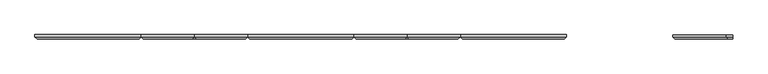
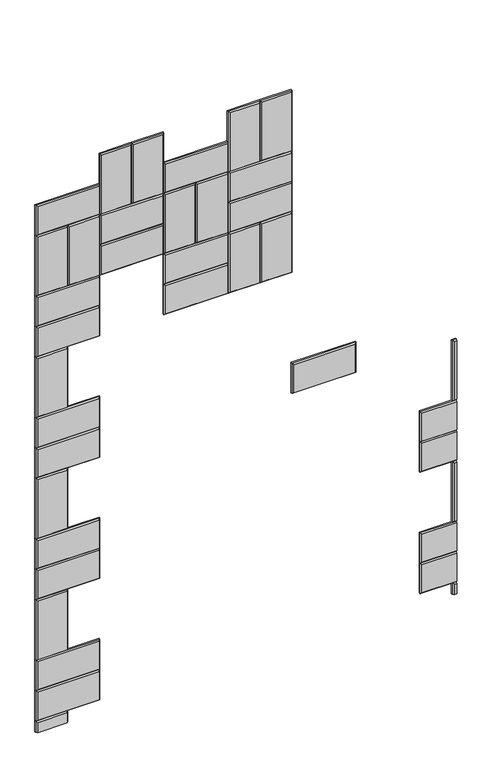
"""IFC4 building model written with IfcOpenShell, lengths in millimetres: proxy geometry, Wall_Wisteria 3.3dm."""

from ifc_helpers import new_model, si_unit, origin, place, context, project, spatial, faceted_brep, source, transform, mapped, element, save


def generic_models_b198d986(model_context):
    return source(origin(), model_context, "Body", "Brep", [
        faceted_brep([(609.8092105, 12.0, 2038.0), (914.6092105, 12.0, 2038.0), (914.6092105, 12.0, 1885.6), (609.8092105, 12.0, 1885.6), (609.8092105, 6.0, 2038.0), (609.8092105, 6.0, 1885.6), (914.6092105, 6.0, 1885.6), (914.6092105, 6.0, 2038.0), (908.6092105, 0.0, 1891.6), (908.6092105, 0.0, 2032.0), (615.8092105, 0.0, 2032.0), (615.8092105, 0.0, 1891.6)], [[[0, 1, 2, 3]], [[4, 0, 3, 5]], [[5, 3, 2, 6]], [[6, 2, 1, 7]], [[7, 1, 0, 4]], [[8, 9, 10, 11]], [[4, 5, 11, 10]], [[5, 6, 8, 11]], [[6, 7, 9, 8]], [[7, 4, 10, 9]]]),
        faceted_brep([(609.8092105, 12.0, 2190.4), (914.6092105, 12.0, 2190.4), (914.6092105, 12.0, 2038.0), (609.8092105, 12.0, 2038.0), (609.8092105, 6.0, 2190.4), (609.8092105, 6.0, 2038.0), (914.6092105, 6.0, 2038.0), (914.6092105, 6.0, 2190.4), (908.6092105, 0.0, 2044.0), (908.6092105, 0.0, 2184.4), (615.8092105, 0.0, 2184.4), (615.8092105, 0.0, 2044.0)], [[[0, 1, 2, 3]], [[4, 0, 3, 5]], [[5, 3, 2, 6]], [[6, 2, 1, 7]], [[7, 1, 0, 4]], [[8, 9, 10, 11]], [[4, 5, 11, 10]], [[5, 6, 8, 11]], [[6, 7, 9, 8]], [[7, 4, 10, 9]]]),
        faceted_brep([(1067.0092105, 12.0, 1885.6), (1067.0092105, 12.0, 2190.4), (1219.4092105, 12.0, 2190.4), (1219.4092105, 12.0, 1885.6), (1067.0092105, 6.0, 1885.6), (1219.4092105, 6.0, 1885.6), (1219.4092105, 6.0, 2190.4), (1067.0092105, 6.0, 2190.4), (1213.4092105, 0.0, 2184.4), (1073.0092105, 0.0, 2184.4), (1073.0092105, 0.0, 1891.6), (1213.4092105, 0.0, 1891.6)], [[[0, 1, 2, 3]], [[4, 0, 3, 5]], [[5, 3, 2, 6]], [[6, 2, 1, 7]], [[7, 1, 0, 4]], [[8, 9, 10, 11]], [[4, 5, 11, 10]], [[5, 6, 8, 11]], [[6, 7, 9, 8]], [[7, 4, 10, 9]]]),
        faceted_brep([(914.6092105, 12.0, 1885.6), (914.6092105, 12.0, 2190.4), (1067.0092105, 12.0, 2190.4), (1067.0092105, 12.0, 1885.6), (914.6092105, 6.0, 1885.6), (1067.0092105, 6.0, 1885.6), (1067.0092105, 6.0, 2190.4), (914.6092105, 6.0, 2190.4), (1061.0092105, 0.0, 2184.4), (920.6092105, 0.0, 2184.4), (920.6092105, 0.0, 1891.6), (1061.0092105, 0.0, 1891.6)], [[[0, 1, 2, 3]], [[4, 0, 3, 5]], [[5, 3, 2, 6]], [[6, 2, 1, 7]], [[7, 1, 0, 4]], [[8, 9, 10, 11]], [[4, 5, 11, 10]], [[5, 6, 8, 11]], [[6, 7, 9, 8]], [[7, 4, 10, 9]]]),
        faceted_brep([(152.6096042, 12.0, 2190.4003711), (152.6096042, 12.0, 2495.2003711), (305.0096042, 12.0, 2495.2003711), (305.0096042, 12.0, 2190.4003711), (152.6096042, 6.0, 2190.4003711), (305.0096042, 6.0, 2190.4003711), (305.0096042, 6.0, 2495.2003711), (152.6096042, 6.0, 2495.2003711), (299.0096042, 0.0, 2489.2003711), (158.6096042, 0.0, 2489.2003711), (158.6096042, 0.0, 2196.4003711), (299.0096042, 0.0, 2196.4003711)], [[[0, 1, 2, 3]], [[4, 0, 3, 5]], [[5, 3, 2, 6]], [[6, 2, 1, 7]], [[7, 1, 0, 4]], [[8, 9, 10, 11]], [[4, 5, 11, 10]], [[5, 6, 8, 11]], [[6, 7, 9, 8]], [[7, 4, 10, 9]]]),
        faceted_brep([(305.0092105, 12.0, 2342.8), (609.8092105, 12.0, 2342.8), (609.8092105, 12.0, 2190.4), (305.0092105, 12.0, 2190.4), (305.0092105, 6.0, 2342.8), (305.0092105, 6.0, 2190.4), (609.8092105, 6.0, 2190.4), (609.8092105, 6.0, 2342.8), (603.8092105, 0.0, 2196.4), (603.8092105, 0.0, 2336.8), (311.0092105, 0.0, 2336.8), (311.0092105, 0.0, 2196.4)], [[[0, 1, 2, 3]], [[4, 0, 3, 5]], [[5, 3, 2, 6]], [[6, 2, 1, 7]], [[7, 1, 0, 4]], [[8, 9, 10, 11]], [[4, 5, 11, 10]], [[5, 6, 8, 11]], [[6, 7, 9, 8]], [[7, 4, 10, 9]]]),
        faceted_brep([(305.0092105, 12.0, 2495.2), (609.8092105, 12.0, 2495.2), (609.8092105, 12.0, 2342.8), (305.0092105, 12.0, 2342.8), (305.0092105, 6.0, 2495.2), (305.0092105, 6.0, 2342.8), (609.8092105, 6.0, 2342.8), (609.8092105, 6.0, 2495.2), (603.8092105, 0.0, 2348.8), (603.8092105, 0.0, 2489.2), (311.0092105, 0.0, 2489.2), (311.0092105, 0.0, 2348.8)], [[[0, 1, 2, 3]], [[4, 0, 3, 5]], [[5, 3, 2, 6]], [[6, 2, 1, 7]], [[7, 1, 0, 4]], [[8, 9, 10, 11]], [[4, 5, 11, 10]], [[5, 6, 8, 11]], [[6, 7, 9, 8]], [[7, 4, 10, 9]]]),
        faceted_brep([(914.6088167, 12.0, 2495.1996289), (1219.4088167, 12.0, 2495.1996289), (1219.4088167, 12.0, 2342.7996289), (914.6088167, 12.0, 2342.7996289), (914.6088167, 6.0, 2495.1996289), (914.6088167, 6.0, 2342.7996289), (1219.4088167, 6.0, 2342.7996289), (1219.4088167, 6.0, 2495.1996289), (1213.4088167, 0.0, 2348.7996289), (1213.4088167, 0.0, 2489.1996289), (920.6088167, 0.0, 2489.1996289), (920.6088167, 0.0, 2348.7996289)], [[[0, 1, 2, 3]], [[4, 0, 3, 5]], [[5, 3, 2, 6]], [[6, 2, 1, 7]], [[7, 1, 0, 4]], [[8, 9, 10, 11]], [[4, 5, 11, 10]], [[5, 6, 8, 11]], [[6, 7, 9, 8]], [[7, 4, 10, 9]]]),
        faceted_brep([(914.6088167, 12.0, 2342.7996289), (1219.4088167, 12.0, 2342.7996289), (1219.4088167, 12.0, 2190.3996289), (914.6088167, 12.0, 2190.3996289), (914.6088167, 6.0, 2342.7996289), (914.6088167, 6.0, 2190.3996289), (1219.4088167, 6.0, 2190.3996289), (1219.4088167, 6.0, 2342.7996289), (1213.4088167, 0.0, 2196.3996289), (1213.4088167, 0.0, 2336.7996289), (920.6088167, 0.0, 2336.7996289), (920.6088167, 0.0, 2196.3996289)], [[[0, 1, 2, 3]], [[4, 0, 3, 5]], [[5, 3, 2, 6]], [[6, 2, 1, 7]], [[7, 1, 0, 4]], [[8, 9, 10, 11]], [[4, 5, 11, 10]], [[5, 6, 8, 11]], [[6, 7, 9, 8]], [[7, 4, 10, 9]]]),
        faceted_brep([(762.2092105, 12.0, 2190.4), (762.2092105, 12.0, 2495.2), (914.6092105, 12.0, 2495.2), (914.6092105, 12.0, 2190.4), (762.2092105, 6.0, 2190.4), (914.6092105, 6.0, 2190.4), (914.6092105, 6.0, 2495.2), (762.2092105, 6.0, 2495.2), (908.6092105, 0.0, 2489.2), (768.2092105, 0.0, 2489.2), (768.2092105, 0.0, 2196.4), (908.6092105, 0.0, 2196.4)], [[[0, 1, 2, 3]], [[4, 0, 3, 5]], [[5, 3, 2, 6]], [[6, 2, 1, 7]], [[7, 1, 0, 4]], [[8, 9, 10, 11]], [[4, 5, 11, 10]], [[5, 6, 8, 11]], [[6, 7, 9, 8]], [[7, 4, 10, 9]]]),
        faceted_brep([(609.8092105, 12.0, 2190.4), (609.8092105, 12.0, 2495.2), (762.2092105, 12.0, 2495.2), (762.2092105, 12.0, 2190.4), (609.8092105, 6.0, 2190.4), (762.2092105, 6.0, 2190.4), (762.2092105, 6.0, 2495.2), (609.8092105, 6.0, 2495.2), (756.2092105, 0.0, 2489.2), (615.8092105, 0.0, 2489.2), (615.8092105, 0.0, 2196.4), (756.2092105, 0.0, 2196.4)], [[[0, 1, 2, 3]], [[4, 0, 3, 5]], [[5, 3, 2, 6]], [[6, 2, 1, 7]], [[7, 1, 0, 4]], [[8, 9, 10, 11]], [[4, 5, 11, 10]], [[5, 6, 8, 11]], [[6, 7, 9, 8]], [[7, 4, 10, 9]]]),
        faceted_brep([(0.2096042, 12.0, 2647.6003711), (305.0096042, 12.0, 2647.6003711), (305.0096042, 12.0, 2495.2003711), (0.2096042, 12.0, 2495.2003711), (0.2096042, 6.0, 2647.6003711), (0.2096042, 6.0, 2495.2003711), (305.0096042, 6.0, 2495.2003711), (305.0096042, 6.0, 2647.6003711), (299.0096042, 0.0, 2501.2003711), (299.0096042, 0.0, 2641.6003711), (6.2096042, 0.0, 2641.6003711), (6.2096042, 0.0, 2501.2003711)], [[[0, 1, 2, 3]], [[4, 0, 3, 5]], [[5, 3, 2, 6]], [[6, 2, 1, 7]], [[7, 1, 0, 4]], [[8, 9, 10, 11]], [[4, 5, 11, 10]], [[5, 6, 8, 11]], [[6, 7, 9, 8]], [[7, 4, 10, 9]]]),
        faceted_brep([(914.6092105, 12.0, 2495.2), (914.6092105, 12.0, 2800.0), (1067.0092105, 12.0, 2800.0), (1067.0092105, 12.0, 2495.2), (914.6092105, 6.0, 2495.2), (1067.0092105, 6.0, 2495.2), (1067.0092105, 6.0, 2800.0), (914.6092105, 6.0, 2800.0), (1061.0092105, 0.0, 2794.0), (920.6092105, 0.0, 2794.0), (920.6092105, 0.0, 2501.2), (1061.0092105, 0.0, 2501.2)], [[[0, 1, 2, 3]], [[4, 0, 3, 5]], [[5, 3, 2, 6]], [[6, 2, 1, 7]], [[7, 1, 0, 4]], [[8, 9, 10, 11]], [[4, 5, 11, 10]], [[5, 6, 8, 11]], [[6, 7, 9, 8]], [[7, 4, 10, 9]]]),
        faceted_brep([(1067.0092105, 12.0, 2495.2), (1067.0092105, 12.0, 2800.0), (1219.4092105, 12.0, 2800.0), (1219.4092105, 12.0, 2495.2), (1067.0092105, 6.0, 2495.2), (1219.4092105, 6.0, 2495.2), (1219.4092105, 6.0, 2800.0), (1067.0092105, 6.0, 2800.0), (1213.4092105, 0.0, 2794.0), (1073.0092105, 0.0, 2794.0), (1073.0092105, 0.0, 2501.2), (1213.4092105, 0.0, 2501.2)], [[[0, 1, 2, 3]], [[4, 0, 3, 5]], [[5, 3, 2, 6]], [[6, 2, 1, 7]], [[7, 1, 0, 4]], [[8, 9, 10, 11]], [[4, 5, 11, 10]], [[5, 6, 8, 11]], [[6, 7, 9, 8]], [[7, 4, 10, 9]]]),
        faceted_brep([(609.8092105, 12.0, 2647.6), (914.6092105, 12.0, 2647.6), (914.6092105, 12.0, 2495.2), (609.8092105, 12.0, 2495.2), (609.8092105, 6.0, 2647.6), (609.8092105, 6.0, 2495.2), (914.6092105, 6.0, 2495.2), (914.6092105, 6.0, 2647.6), (908.6092105, 0.0, 2501.2), (908.6092105, 0.0, 2641.6), (615.8092105, 0.0, 2641.6), (615.8092105, 0.0, 2501.2)], [[[0, 1, 2, 3]], [[4, 0, 3, 5]], [[5, 3, 2, 6]], [[6, 2, 1, 7]], [[7, 1, 0, 4]], [[8, 9, 10, 11]], [[4, 5, 11, 10]], [[5, 6, 8, 11]], [[6, 7, 9, 8]], [[7, 4, 10, 9]]]),
        faceted_brep([(457.4096042, 12.0, 2495.2003711), (457.4096042, 12.0, 2800.0003711), (609.8096042, 12.0, 2800.0003711), (609.8096042, 12.0, 2495.2003711), (457.4096042, 6.0, 2495.2003711), (609.8096042, 6.0, 2495.2003711), (609.8096042, 6.0, 2800.0003711), (457.4096042, 6.0, 2800.0003711), (603.8096042, 0.0, 2794.0003711), (463.4096042, 0.0, 2794.0003711), (463.4096042, 0.0, 2501.2003711), (603.8096042, 0.0, 2501.2003711)], [[[0, 1, 2, 3]], [[4, 0, 3, 5]], [[5, 3, 2, 6]], [[6, 2, 1, 7]], [[7, 1, 0, 4]], [[8, 9, 10, 11]], [[4, 5, 11, 10]], [[5, 6, 8, 11]], [[6, 7, 9, 8]], [[7, 4, 10, 9]]]),
        faceted_brep([(305.0096042, 12.0, 2495.2003711), (305.0096042, 12.0, 2800.0003711), (457.4096042, 12.0, 2800.0003711), (457.4096042, 12.0, 2495.2003711), (305.0096042, 6.0, 2495.2003711), (457.4096042, 6.0, 2495.2003711), (457.4096042, 6.0, 2800.0003711), (305.0096042, 6.0, 2800.0003711), (451.4096042, 0.0, 2794.0003711), (311.0096042, 0.0, 2794.0003711), (311.0096042, 0.0, 2501.2003711), (451.4096042, 0.0, 2501.2003711)], [[[0, 1, 2, 3]], [[4, 0, 3, 5]], [[5, 3, 2, 6]], [[6, 2, 1, 7]], [[7, 1, 0, 4]], [[8, 9, 10, 11]], [[4, 5, 11, 10]], [[5, 6, 8, 11]], [[6, 7, 9, 8]], [[7, 4, 10, 9]]]),
        faceted_brep([(0.2096042, 12.0, 2190.4003711), (0.2096042, 12.0, 2495.2003711), (152.6096042, 12.0, 2495.2003711), (152.6096042, 12.0, 2190.4003711), (0.2096042, 6.0, 2190.4003711), (152.6096042, 6.0, 2190.4003711), (152.6096042, 6.0, 2495.2003711), (0.2096042, 6.0, 2495.2003711), (146.6096042, 0.0, 2489.2003711), (6.2096042, 0.0, 2489.2003711), (6.2096042, 0.0, 2196.4003711), (146.6096042, 0.0, 2196.4003711)], [[[0, 1, 2, 3]], [[4, 0, 3, 5]], [[5, 3, 2, 6]], [[6, 2, 1, 7]], [[7, 1, 0, 4]], [[8, 9, 10, 11]], [[4, 5, 11, 10]], [[5, 6, 8, 11]], [[6, 7, 9, 8]], [[7, 4, 10, 9]]]),
        faceted_brep([(0.2096042, 12.0, 2190.4003711), (305.0096042, 12.0, 2190.4003711), (305.0096042, 12.0, 2038.0003711), (0.2096042, 12.0, 2038.0003711), (0.2096042, 6.0, 2190.4003711), (0.2096042, 6.0, 2038.0003711), (305.0096042, 6.0, 2038.0003711), (305.0096042, 6.0, 2190.4003711), (299.0096042, 0.0, 2044.0003711), (299.0096042, 0.0, 2184.4003711), (6.2096042, 0.0, 2184.4003711), (6.2096042, 0.0, 2044.0003711)], [[[0, 1, 2, 3]], [[4, 0, 3, 5]], [[5, 3, 2, 6]], [[6, 2, 1, 7]], [[7, 1, 0, 4]], [[8, 9, 10, 11]], [[4, 5, 11, 10]], [[5, 6, 8, 11]], [[6, 7, 9, 8]], [[7, 4, 10, 9]]]),
        faceted_brep([(0.2096042, 12.0, 2038.0003711), (305.0096042, 12.0, 2038.0003711), (305.0096042, 12.0, 1885.6003711), (0.2096042, 12.0, 1885.6003711), (0.2096042, 6.0, 2038.0003711), (0.2096042, 6.0, 1885.6003711), (305.0096042, 6.0, 1885.6003711), (305.0096042, 6.0, 2038.0003711), (299.0096042, 0.0, 1891.6003711), (299.0096042, 0.0, 2032.0003711), (6.2096042, 0.0, 2032.0003711), (6.2096042, 0.0, 1891.6003711)], [[[0, 1, 2, 3]], [[4, 0, 3, 5]], [[5, 3, 2, 6]], [[6, 2, 1, 7]], [[7, 1, 0, 4]], [[8, 9, 10, 11]], [[4, 5, 11, 10]], [[5, 6, 8, 11]], [[6, 7, 9, 8]], [[7, 4, 10, 9]]]),
        faceted_brep([(0.2096042, 12.0, 1580.8003711), (0.2096042, 12.0, 1885.6003711), (152.6096042, 12.0, 1885.6003711), (152.6096042, 12.0, 1580.8003711), (0.2096042, 6.0, 1580.8003711), (152.6096042, 6.0, 1580.8003711), (152.6096042, 6.0, 1885.6003711), (0.2096042, 6.0, 1885.6003711), (146.6096042, 0.0, 1879.6003711), (6.2096042, 0.0, 1879.6003711), (6.2096042, 0.0, 1586.8003711), (146.6096042, 0.0, 1586.8003711)], [[[0, 1, 2, 3]], [[4, 0, 3, 5]], [[5, 3, 2, 6]], [[6, 2, 1, 7]], [[7, 1, 0, 4]], [[8, 9, 10, 11]], [[4, 5, 11, 10]], [[5, 6, 8, 11]], [[6, 7, 9, 8]], [[7, 4, 10, 9]]]),
        faceted_brep([(0.2096042, 12.0, 1580.8003711), (305.0096042, 12.0, 1580.8003711), (305.0096042, 12.0, 1428.4003711), (0.2096042, 12.0, 1428.4003711), (0.2096042, 6.0, 1580.8003711), (0.2096042, 6.0, 1428.4003711), (305.0096042, 6.0, 1428.4003711), (305.0096042, 6.0, 1580.8003711), (299.0096042, 0.0, 1434.4003711), (299.0096042, 0.0, 1574.8003711), (6.2096042, 0.0, 1574.8003711), (6.2096042, 0.0, 1434.4003711)], [[[0, 1, 2, 3]], [[4, 0, 3, 5]], [[5, 3, 2, 6]], [[6, 2, 1, 7]], [[7, 1, 0, 4]], [[8, 9, 10, 11]], [[4, 5, 11, 10]], [[5, 6, 8, 11]], [[6, 7, 9, 8]], [[7, 4, 10, 9]]]),
        faceted_brep([(0.2096042, 12.0, 1428.4003711), (305.0096042, 12.0, 1428.4003711), (305.0096042, 12.0, 1276.0003711), (0.2096042, 12.0, 1276.0003711), (0.2096042, 6.0, 1428.4003711), (0.2096042, 6.0, 1276.0003711), (305.0096042, 6.0, 1276.0003711), (305.0096042, 6.0, 1428.4003711), (299.0096042, 0.0, 1282.0003711), (299.0096042, 0.0, 1422.4003711), (6.2096042, 0.0, 1422.4003711), (6.2096042, 0.0, 1282.0003711)], [[[0, 1, 2, 3]], [[4, 0, 3, 5]], [[5, 3, 2, 6]], [[6, 2, 1, 7]], [[7, 1, 0, 4]], [[8, 9, 10, 11]], [[4, 5, 11, 10]], [[5, 6, 8, 11]], [[6, 7, 9, 8]], [[7, 4, 10, 9]]]),
        faceted_brep([(2000.2096042, 12.0, 971.1992578), (1981.408423, 12.0, 971.1992578), (1981.408423, 12.0, 1275.9992578), (2000.2096042, 12.0, 1275.9992578), (2000.2096042, 6.0, 971.1992578), (1981.408423, 6.0, 971.1992578), (2000.2096042, 6.0, 1275.9992578), (1981.408423, 6.0, 1275.9992578), (2000.2096042, 0.0, 977.1992578), (2000.2096042, 0.0, 1269.9992578), (1987.408423, 0.0, 1269.9992578), (1987.408423, 0.0, 977.1992578)], [[[0, 1, 2, 3]], [[0, 4, 5, 1]], [[6, 3, 2, 7]], [[7, 2, 1, 5]], [[8, 9, 10, 11]], [[4, 8, 11, 5]], [[9, 6, 7, 10]], [[7, 5, 11, 10]], [[0, 3, 6, 9, 8, 4]]]),
        faceted_brep([(0.2096042, 12.0, 971.2003711), (0.2096042, 12.0, 1276.0003711), (152.6096042, 12.0, 1276.0003711), (152.6096042, 12.0, 971.2003711), (0.2096042, 6.0, 971.2003711), (152.6096042, 6.0, 971.2003711), (152.6096042, 6.0, 1276.0003711), (0.2096042, 6.0, 1276.0003711), (146.6096042, 0.0, 1270.0003711), (6.2096042, 0.0, 1270.0003711), (6.2096042, 0.0, 977.2003711), (146.6096042, 0.0, 977.2003711)], [[[0, 1, 2, 3]], [[4, 0, 3, 5]], [[5, 3, 2, 6]], [[6, 2, 1, 7]], [[7, 1, 0, 4]], [[8, 9, 10, 11]], [[4, 5, 11, 10]], [[5, 6, 8, 11]], [[6, 7, 9, 8]], [[7, 4, 10, 9]]]),
        faceted_brep([(0.2096042, 12.0, 971.2003711), (305.0096042, 12.0, 971.2003711), (305.0096042, 12.0, 818.8003711), (0.2096042, 12.0, 818.8003711), (0.2096042, 6.0, 971.2003711), (0.2096042, 6.0, 818.8003711), (305.0096042, 6.0, 818.8003711), (305.0096042, 6.0, 971.2003711), (299.0096042, 0.0, 824.8003711), (299.0096042, 0.0, 965.2003711), (6.2096042, 0.0, 965.2003711), (6.2096042, 0.0, 824.8003711)], [[[0, 1, 2, 3]], [[4, 0, 3, 5]], [[5, 3, 2, 6]], [[6, 2, 1, 7]], [[7, 1, 0, 4]], [[8, 9, 10, 11]], [[4, 5, 11, 10]], [[5, 6, 8, 11]], [[6, 7, 9, 8]], [[7, 4, 10, 9]]]),
        faceted_brep([(0.2096042, 12.0, 818.8003711), (305.0096042, 12.0, 818.8003711), (305.0096042, 12.0, 666.4003711), (0.2096042, 12.0, 666.4003711), (0.2096042, 6.0, 818.8003711), (0.2096042, 6.0, 666.4003711), (305.0096042, 6.0, 666.4003711), (305.0096042, 6.0, 818.8003711), (299.0096042, 0.0, 672.4003711), (299.0096042, 0.0, 812.8003711), (6.2096042, 0.0, 812.8003711), (6.2096042, 0.0, 672.4003711)], [[[0, 1, 2, 3]], [[4, 0, 3, 5]], [[5, 3, 2, 6]], [[6, 2, 1, 7]], [[7, 1, 0, 4]], [[8, 9, 10, 11]], [[4, 5, 11, 10]], [[5, 6, 8, 11]], [[6, 7, 9, 8]], [[7, 4, 10, 9]]]),
        faceted_brep([(2000.2096042, 12.0, 666.3992578), (1829.008423, 12.0, 666.3992578), (1829.008423, 12.0, 818.7992578), (2000.2096042, 12.0, 818.7992578), (1829.008423, 6.0, 818.7992578), (1829.008423, 6.0, 666.3992578), (2000.2096042, 6.0, 666.3992578), (2000.2096042, 6.0, 818.7992578), (2000.2096042, 0.0, 672.3992578), (2000.2096042, 0.0, 812.7992578), (1835.008423, 0.0, 812.7992578), (1835.008423, 0.0, 672.3992578)], [[[0, 1, 2, 3]], [[4, 2, 1, 5]], [[0, 6, 5, 1]], [[7, 3, 2, 4]], [[8, 9, 10, 11]], [[4, 5, 11, 10]], [[6, 8, 11, 5]], [[9, 7, 4, 10]], [[0, 3, 7, 9, 8, 6]]]),
        faceted_brep([(2000.2096042, 12.0, 818.7992578), (1829.008423, 12.0, 818.7992578), (1829.008423, 12.0, 971.1992578), (2000.2096042, 12.0, 971.1992578), (1829.008423, 6.0, 971.1992578), (1829.008423, 6.0, 818.7992578), (2000.2096042, 6.0, 818.7992578), (2000.2096042, 6.0, 971.1992578), (2000.2096042, 0.0, 824.7992578), (2000.2096042, 0.0, 965.1992578), (1835.008423, 0.0, 965.1992578), (1835.008423, 0.0, 824.7992578)], [[[0, 1, 2, 3]], [[4, 2, 1, 5]], [[0, 6, 5, 1]], [[7, 3, 2, 4]], [[8, 9, 10, 11]], [[4, 5, 11, 10]], [[6, 8, 11, 5]], [[9, 7, 4, 10]], [[0, 3, 7, 9, 8, 6]]]),
        faceted_brep([(2000.2096042, 12.0, 361.5992578), (1981.408423, 12.0, 361.5992578), (1981.408423, 12.0, 666.3992578), (2000.2096042, 12.0, 666.3992578), (2000.2096042, 6.0, 361.5992578), (1981.408423, 6.0, 361.5992578), (2000.2096042, 6.0, 666.3992578), (1981.408423, 6.0, 666.3992578), (2000.2096042, 0.0, 367.5992578), (2000.2096042, 0.0, 660.3992578), (1987.408423, 0.0, 660.3992578), (1987.408423, 0.0, 367.5992578)], [[[0, 1, 2, 3]], [[0, 4, 5, 1]], [[6, 3, 2, 7]], [[7, 2, 1, 5]], [[8, 9, 10, 11]], [[4, 8, 11, 5]], [[9, 6, 7, 10]], [[7, 5, 11, 10]], [[0, 3, 6, 9, 8, 4]]]),
        faceted_brep([(0.2096042, 12.0, 361.6003711), (0.2096042, 12.0, 666.4003711), (152.6096042, 12.0, 666.4003711), (152.6096042, 12.0, 361.6003711), (0.2096042, 6.0, 361.6003711), (152.6096042, 6.0, 361.6003711), (152.6096042, 6.0, 666.4003711), (0.2096042, 6.0, 666.4003711), (146.6096042, 0.0, 660.4003711), (6.2096042, 0.0, 660.4003711), (6.2096042, 0.0, 367.6003711), (146.6096042, 0.0, 367.6003711)], [[[0, 1, 2, 3]], [[4, 0, 3, 5]], [[5, 3, 2, 6]], [[6, 2, 1, 7]], [[7, 1, 0, 4]], [[8, 9, 10, 11]], [[4, 5, 11, 10]], [[5, 6, 8, 11]], [[6, 7, 9, 8]], [[7, 4, 10, 9]]]),
        faceted_brep([(0.2096042, 12.0, 361.6003711), (305.0096042, 12.0, 361.6003711), (305.0096042, 12.0, 209.2003711), (0.2096042, 12.0, 209.2003711), (0.2096042, 6.0, 361.6003711), (0.2096042, 6.0, 209.2003711), (305.0096042, 6.0, 209.2003711), (305.0096042, 6.0, 361.6003711), (299.0096042, 0.0, 215.2003711), (299.0096042, 0.0, 355.6003711), (6.2096042, 0.0, 355.6003711), (6.2096042, 0.0, 215.2003711)], [[[0, 1, 2, 3]], [[4, 0, 3, 5]], [[5, 3, 2, 6]], [[6, 2, 1, 7]], [[7, 1, 0, 4]], [[8, 9, 10, 11]], [[4, 5, 11, 10]], [[5, 6, 8, 11]], [[6, 7, 9, 8]], [[7, 4, 10, 9]]]),
        faceted_brep([(0.2096042, 12.0, 209.2003711), (305.0096042, 12.0, 209.2003711), (305.0096042, 12.0, 56.8003711), (0.2096042, 12.0, 56.8003711), (0.2096042, 6.0, 209.2003711), (0.2096042, 6.0, 56.8003711), (305.0096042, 6.0, 56.8003711), (305.0096042, 6.0, 209.2003711), (299.0096042, 0.0, 62.8003711), (299.0096042, 0.0, 203.2003711), (6.2096042, 0.0, 203.2003711), (6.2096042, 0.0, 62.8003711)], [[[0, 1, 2, 3]], [[4, 0, 3, 5]], [[5, 3, 2, 6]], [[6, 2, 1, 7]], [[7, 1, 0, 4]], [[8, 9, 10, 11]], [[4, 5, 11, 10]], [[5, 6, 8, 11]], [[6, 7, 9, 8]], [[7, 4, 10, 9]]]),
        faceted_brep([(2000.2096042, 12.0, 56.7992578), (1829.008423, 12.0, 56.7992578), (1829.008423, 12.0, 209.1992578), (2000.2096042, 12.0, 209.1992578), (1829.008423, 6.0, 209.1992578), (1829.008423, 6.0, 56.7992578), (2000.2096042, 6.0, 56.7992578), (2000.2096042, 6.0, 209.1992578), (2000.2096042, 0.0, 62.7992578), (2000.2096042, 0.0, 203.1992578), (1835.008423, 0.0, 203.1992578), (1835.008423, 0.0, 62.7992578)], [[[0, 1, 2, 3]], [[4, 2, 1, 5]], [[0, 6, 5, 1]], [[7, 3, 2, 4]], [[8, 9, 10, 11]], [[4, 5, 11, 10]], [[6, 8, 11, 5]], [[9, 7, 4, 10]], [[0, 3, 7, 9, 8, 6]]]),
        faceted_brep([(2000.2096042, 12.0, 209.1992578), (1829.008423, 12.0, 209.1992578), (1829.008423, 12.0, 361.5992578), (2000.2096042, 12.0, 361.5992578), (1829.008423, 6.0, 361.5992578), (1829.008423, 6.0, 209.1992578), (2000.2096042, 6.0, 209.1992578), (2000.2096042, 6.0, 361.5992578), (2000.2096042, 0.0, 215.1992578), (2000.2096042, 0.0, 355.5992578), (1835.008423, 0.0, 355.5992578), (1835.008423, 0.0, 215.1992578)], [[[0, 1, 2, 3]], [[4, 2, 1, 5]], [[0, 6, 5, 1]], [[7, 3, 2, 4]], [[8, 9, 10, 11]], [[4, 5, 11, 10]], [[6, 8, 11, 5]], [[9, 7, 4, 10]], [[0, 3, 7, 9, 8, 6]]]),
        faceted_brep([(2000.2096042, 12.0, 0.0), (1981.408423, 12.0, 0.0), (1981.408423, 12.0, 56.7992578), (2000.2096042, 12.0, 56.7992578), (2000.2096042, 6.0, 56.7992578), (1981.408423, 6.0, 56.7992578), (1981.408423, 6.0, 0.0), (1987.408423, 0.0, 0.0), (2000.2096042, 0.0, 0.0), (2000.2096042, 0.0, 50.7992578), (1987.408423, 0.0, 50.7992578)], [[[0, 1, 2, 3]], [[4, 3, 2, 5]], [[1, 6, 5, 2]], [[7, 8, 9, 10]], [[9, 4, 5, 10]], [[6, 7, 10, 5]], [[7, 6, 1, 0, 8]], [[0, 3, 4, 9, 8]]]),
        faceted_brep([(0.2096042, 12.0, 0.0), (0.2096042, 12.0, 56.8003711), (152.6096042, 12.0, 56.8003711), (152.6096042, 12.0, 0.0), (152.6096042, 6.0, 0.0), (152.6096042, 6.0, 56.8003711), (0.2096042, 6.0, 56.8003711), (0.2096042, 6.0, 0.0), (6.2096042, 0.0, 0.0), (146.6096042, 0.0, 0.0), (146.6096042, 0.0, 50.8003711), (6.2096042, 0.0, 50.8003711)], [[[0, 1, 2, 3]], [[4, 3, 2, 5]], [[5, 2, 1, 6]], [[0, 7, 6, 1]], [[8, 9, 10, 11]], [[9, 4, 5, 10]], [[5, 6, 11, 10]], [[7, 8, 11, 6]], [[0, 3, 4, 9, 8, 7]]]),
        faceted_brep([(1219.4088167, 12.0, 1428.3996289), (1524.2088167, 12.0, 1428.3996289), (1524.2088167, 12.0, 1275.9996289), (1219.4088167, 12.0, 1275.9996289), (1219.4088167, 6.0, 1428.3996289), (1219.4088167, 6.0, 1275.9996289), (1524.2088167, 6.0, 1275.9996289), (1524.2088167, 6.0, 1428.3996289), (1518.2088167, 0.0, 1281.9996289), (1518.2088167, 0.0, 1422.3996289), (1225.4088167, 0.0, 1422.3996289), (1225.4088167, 0.0, 1281.9996289)], [[[0, 1, 2, 3]], [[4, 0, 3, 5]], [[5, 3, 2, 6]], [[6, 2, 1, 7]], [[7, 1, 0, 4]], [[8, 9, 10, 11]], [[4, 5, 11, 10]], [[5, 6, 8, 11]], [[6, 7, 9, 8]], [[7, 4, 10, 9]]]),
    ])


if __name__ == "__main__":
    model = new_model("IFC4")
    model_context = context("Model", 3, world=origin())
    ifc_project = project(units=[si_unit("LENGTHUNIT", "METRE", prefix="MILLI")], contexts=[model_context])
    site = spatial("IfcSite", under=ifc_project)
    building = spatial("IfcBuilding", under=site)
    placement = place(None, origin())
    generic_models_shape = generic_models_b198d986(model_context)
    element("IfcBuildingElementProxy", 1, Name="Wall_Wisteria 3.3dm", ObjectType="Wall_Wisteria 3.3dm", at=placement, inside=building, context=model_context, shape_type="MappedRepresentation", body=[
        mapped(generic_models_shape, transform((0.0, 0.0, 0.0), x_axis=(1.0, 0.0, 0.0), y_axis=(0.0, 1.0, 0.0), z_axis=(0.0, 0.0, 1.0))),
    ])
    save(model, "model.ifc")
